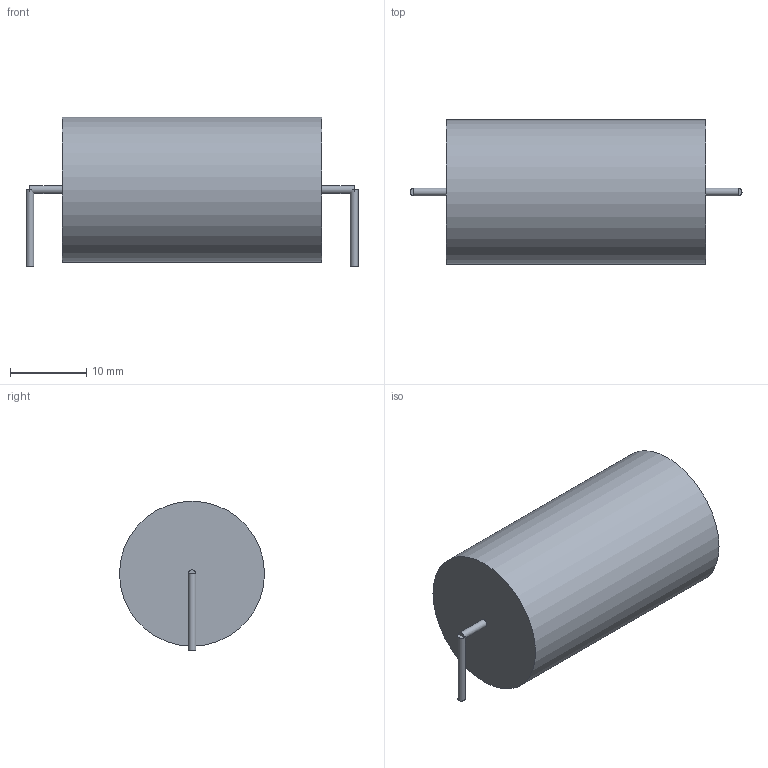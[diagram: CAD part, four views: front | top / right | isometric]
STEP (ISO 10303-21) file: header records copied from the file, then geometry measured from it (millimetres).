
FILE_DESCRIPTION(('Open CASCADE Model'),'2;1');
FILE_NAME('Open CASCADE Shape Model','2026-09-26T00:00:00',('Author'),( 'Open CASCADE'),'Open CASCADE STEP processor 7.9','Open CASCADE 7.9' ,'Unknown');
FILE_SCHEMA(('AUTOMOTIVE_DESIGN { 1 0 10303 214 1 1 1 1 }'));
Length unit declared in the file: millimetre
Products named in the file (6): Open CASCADE STEP translator 7.9 2; Open CASCADE STEP translator 7.9 2.1; Open CASCADE STEP translator 7.9 2.2; Open CASCADE STEP translator 7.9 2.3; Open CASCADE STEP translator 7.9 2.4; Open CASCADE STEP translator 7.9 2.5
Assembly tree (5 placements, depth 2):
  Open CASCADE STEP translator 7.9 2
    Open CASCADE STEP translator 7.9 2.1
    Open CASCADE STEP translator 7.9 2.2
    Open CASCADE STEP translator 7.9 2.3
    Open CASCADE STEP translator 7.9 2.4
    Open CASCADE STEP translator 7.9 2.5
Bounding box: 43.5 x 19 x 19.6 mm (x, y, z)
Volume: 9662.5 mm3; surface area: 2693 mm2
Topology: 5 solids, 5 shells, 15 faces, 15 edges, 10 vertices
Faces by surface type: plane 10, cylinder 5
Full cylindrical faces by diameter (mm): 1 x4, 19 x1
Entity records: 566 total; most frequent: DIRECTION 97, CARTESIAN_POINT 76, AXIS2_PLACEMENT_3D 31, ORIENTED_EDGE 30, PCURVE 30, DEFINITIONAL_REPRESENTATION 30, LINE 25, VECTOR 25
